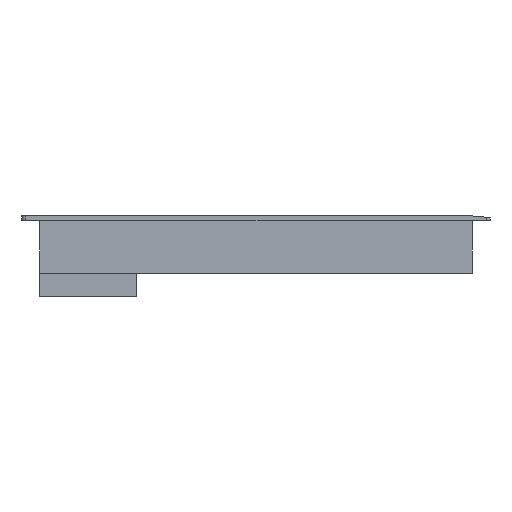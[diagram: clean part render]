
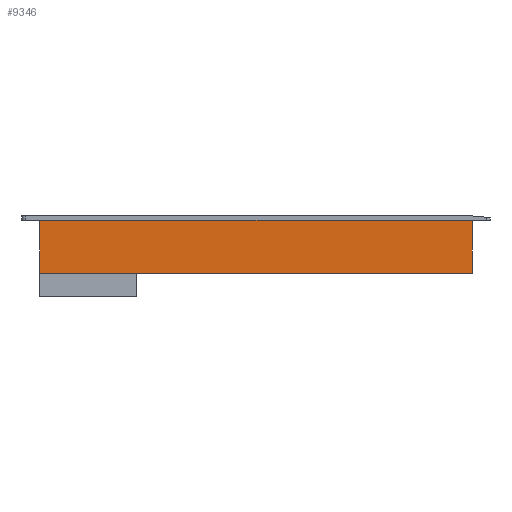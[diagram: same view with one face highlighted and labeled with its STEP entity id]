
A CAD part, left-side view. The second image highlights one B-rep face of the part: STEP entity #9346.
In plain terms, the highlighted planar face has unit normal (-1, 0, 0).
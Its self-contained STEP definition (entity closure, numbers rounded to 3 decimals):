
#9307=CARTESIAN_POINT('Axis2P3D Location',(-435.,185.,0.)) ;
#9312=CARTESIAN_POINT('Line Origine',(-435.,0.,-49.2)) ;
#9316=CARTESIAN_POINT('Vertex',(-435.,185.,-49.2)) ;
#9318=CARTESIAN_POINT('Vertex',(-435.,-185.,-49.2)) ;
#9321=CARTESIAN_POINT('Line Origine',(-435.,-185.,-26.6)) ;
#9325=CARTESIAN_POINT('Vertex',(-435.,-185.,-4.)) ;
#9328=CARTESIAN_POINT('Line Origine',(-435.,0.,-4.)) ;
#9332=CARTESIAN_POINT('Vertex',(-435.,185.,-4.)) ;
#9335=CARTESIAN_POINT('Line Origine',(-435.,185.,-26.6)) ;
#9308=DIRECTION('Axis2P3D Direction',(1.,0.,0.)) ;
#9309=DIRECTION('Axis2P3D XDirection',(0.,-1.,0.)) ;
#9313=DIRECTION('Vector Direction',(0.,-1.,0.)) ;
#9322=DIRECTION('Vector Direction',(0.,0.,-1.)) ;
#9329=DIRECTION('Vector Direction',(0.,-1.,0.)) ;
#9336=DIRECTION('Vector Direction',(0.,0.,-1.)) ;
#9310=AXIS2_PLACEMENT_3D('Plane Axis2P3D',#9307,#9308,#9309) ;
#9341=ORIENTED_EDGE('',*,*,#9320,.T.) ;
#9342=ORIENTED_EDGE('',*,*,#9327,.F.) ;
#9343=ORIENTED_EDGE('',*,*,#9334,.F.) ;
#9344=ORIENTED_EDGE('',*,*,#9339,.T.) ;
#9314=VECTOR('Line Direction',#9313,1.) ;
#9323=VECTOR('Line Direction',#9322,1.) ;
#9330=VECTOR('Line Direction',#9329,1.) ;
#9337=VECTOR('Line Direction',#9336,1.) ;
#9346=ADVANCED_FACE('PartBody',(#9345),#9311,.F.) ;
#9320=EDGE_CURVE('',#9317,#9319,#9315,.T.) ;
#9327=EDGE_CURVE('',#9326,#9319,#9324,.T.) ;
#9334=EDGE_CURVE('',#9333,#9326,#9331,.T.) ;
#9339=EDGE_CURVE('',#9333,#9317,#9338,.T.) ;
#9340=EDGE_LOOP('',(#9341,#9342,#9343,#9344)) ;
#9345=FACE_OUTER_BOUND('',#9340,.T.) ;
#9315=LINE('Line',#9312,#9314) ;
#9324=LINE('Line',#9321,#9323) ;
#9331=LINE('Line',#9328,#9330) ;
#9338=LINE('Line',#9335,#9337) ;
#9311=PLANE('',#9310) ;
#9317=VERTEX_POINT('',#9316) ;
#9319=VERTEX_POINT('',#9318) ;
#9326=VERTEX_POINT('',#9325) ;
#9333=VERTEX_POINT('',#9332) ;
